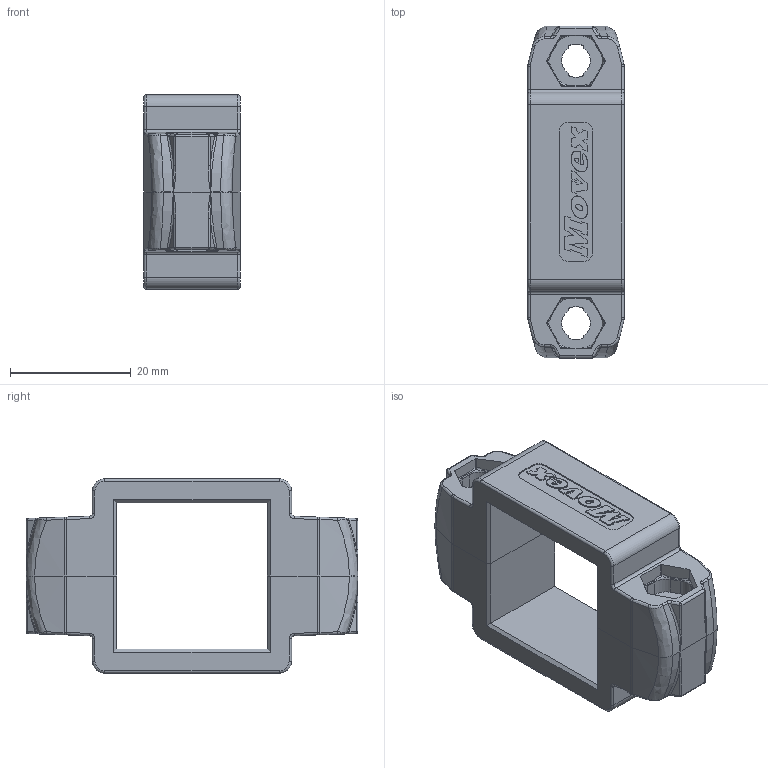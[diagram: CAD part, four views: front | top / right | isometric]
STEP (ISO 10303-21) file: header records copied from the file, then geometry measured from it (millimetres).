
FILE_DESCRIPTION(('CATIA V5 STEP Exchange'),'2;1');
FILE_NAME('C:\Users\dentellad\Desktop\P21701_01.stp','2017-02-27T07:31:29+00:00',('none'),('none'),'Version 5-6 Release 2012','CATIA V5 STEP AP203','none');
FILE_SCHEMA(('CONFIG_CONTROL_DESIGN'));
Length unit declared in the file: millimetre
Products named in the file (1): P21701_01
Assembly tree (2 placements, depth 2):
  P21701_01
    #58  x2
Bounding box: 16 x 54.99 x 32.2 mm (x, y, z)
Volume: 11337.6 mm3; surface area: 7803.8 mm2
Topology: 2 solids, 2 shells, 1476 faces, 4040 edges, 2540 vertices
Faces by surface type: plane 1032, cylinder 228, bspline 144, torus 48, cone 8, extrusion 8, sphere 8
Entity records: 26736 total; most frequent: CARTESIAN_POINT 9029, ORIENTED_EDGE 3984, DIRECTION 3039, EDGE_CURVE 1992, VECTOR 1598, LINE 1594, VERTEX_POINT 1270, AXIS2_PLACEMENT_3D 820
